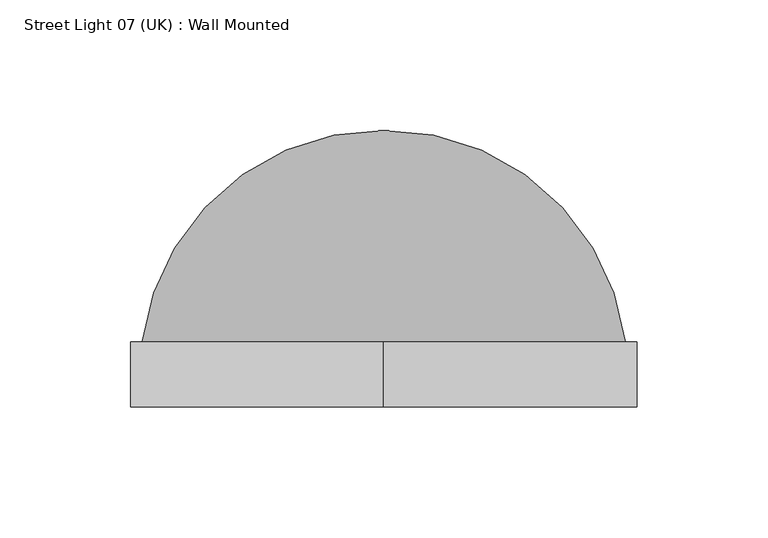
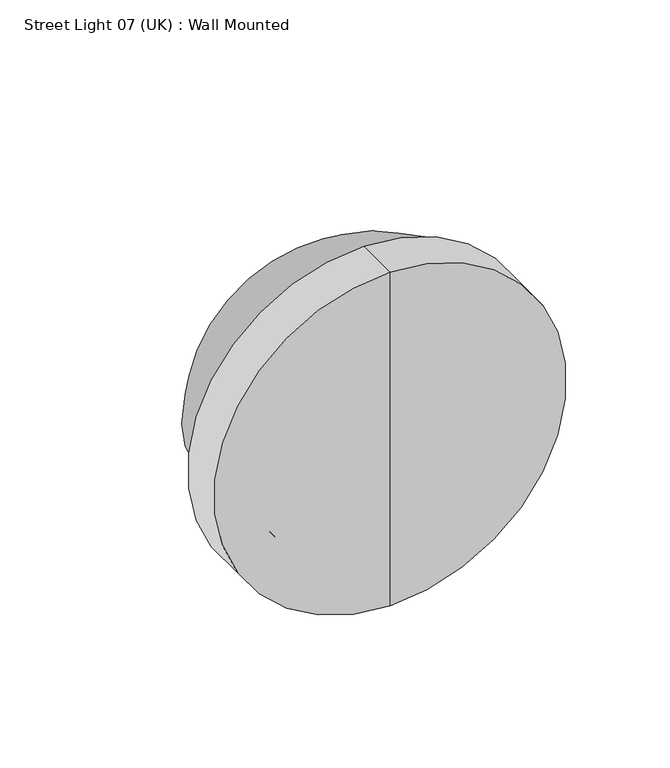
"""IFC4 building model written with IfcOpenShell, lengths in millimetres: light fixture geometry, Street Light 07 (UK) : Wall Mounted."""

import ifcopenshell
import ifcopenshell.guid

model = None  # the IFC model being written
_history = None  # IfcOwnerHistory: only IFC2X3 demands one
_inside = {}  # id of a spatial element -> (the spatial element, [elements in it])
_under = {}  # id of a project, library or spatial element -> (it, [spatial elements below it])
_declared = {}  # id of a project -> (the project, [libraries it declares])
_typed = {}  # id of a type object -> (the type object, [elements of that type])
_made_of = {}  # id of a material, layer set ... -> (it, [elements and type objects made of it])


def new_model(schema):
    """Start an empty IFC model of exactly this schema.

    Asked for "IFC4X3", IfcOpenShell would pick the latest addendum, in which some entities
    have other attributes; the version numbers below select the first issue.
    IFC2X3 requires an IfcOwnerHistory on every rooted entity: one is made here for all.
    """
    global model, _history
    if schema == "IFC4X3":
        model = ifcopenshell.file(schema_version=(4, 3, 0, 0))
    else:
        model = ifcopenshell.file(schema=schema)
    _inside.clear()
    _under.clear()
    _declared.clear()
    _typed.clear()
    _made_of.clear()
    _history = None
    if model.schema == "IFC2X3":
        org = make("IfcOrganization", Name="unknown")
        user = make(
            "IfcPersonAndOrganization",
            ThePerson=make("IfcPerson", FamilyName="unknown"),
            TheOrganization=org,
        )
        app = make(
            "IfcApplication",
            ApplicationDeveloper=org,
            Version="unknown",
            ApplicationFullName="unknown",
            ApplicationIdentifier="unknown",
        )
        _history = make(
            "IfcOwnerHistory",
            OwningUser=user,
            OwningApplication=app,
            ChangeAction="ADDED",
            CreationDate=0,
        )
    return model


def make(cls, **values):
    """One entity of the class cls with the attributes given. An attribute that is None is left unset."""
    return model.create_entity(
        cls, **{name: value for name, value in values.items() if value is not None}
    )


def rooted(cls, **values):
    """An entity with a GlobalId (a new one), such as an element, a storey or a relation."""
    return make(cls, GlobalId=ifcopenshell.guid.new(), OwnerHistory=_history, **values)


def si_unit(unit_type, name, prefix=None):
    """IfcSIUnit, for example si_unit("LENGTHUNIT", "METRE", prefix="MILLI")."""
    return make("IfcSIUnit", UnitType=unit_type, Prefix=prefix, Name=name)


def assignment(units):
    """IfcUnitAssignment: the units of a project."""
    return None if units is None else make("IfcUnitAssignment", Units=units)


def point(xyz):
    """IfcCartesianPoint."""
    return None if xyz is None else make("IfcCartesianPoint", Coordinates=xyz)


def direction(xyz):
    """IfcDirection."""
    return None if xyz is None else make("IfcDirection", DirectionRatios=xyz)


def frame(location, z_axis=None, x_axis=None):
    """IfcAxis2Placement3D, a coordinate frame: its origin and axes. An axis left out is left unset."""
    return make(
        "IfcAxis2Placement3D",
        Location=point(location),
        Axis=direction(z_axis),
        RefDirection=direction(x_axis),
    )


def origin():
    """The frame at (0, 0, 0) with its axes left unset."""
    return frame((0.0, 0.0, 0.0))


def place(relative_to, where):
    """IfcLocalPlacement: puts the frame where relative to a parent placement (None: the world)."""
    return make(
        "IfcLocalPlacement", PlacementRelTo=relative_to, RelativePlacement=where
    )


def context(
    kind, dimensions, precision=None, world=None, true_north=None, identifier=None
):
    """IfcGeometricRepresentationContext, for example the 3D "Model" context."""
    return make(
        "IfcGeometricRepresentationContext",
        ContextIdentifier=identifier,
        ContextType=kind,
        CoordinateSpaceDimension=dimensions,
        Precision=precision,
        WorldCoordinateSystem=world,
        TrueNorth=true_north,
    )


def project(units=None, contexts=None):
    """IfcProject with its units and contexts."""
    return rooted(
        "IfcProject",
        Name="project",
        RepresentationContexts=contexts,
        UnitsInContext=assignment(units),
    )


def spatial(cls, under=None, at=None, **own):
    """A site, building, storey or space (cls), placed at a placement, below another one or the project."""
    s = rooted(cls, ObjectPlacement=at, **own)
    if under is not None:
        _under.setdefault(under.id(), (under, []))[1].append(s)
    return s


def polyline(points):
    """IfcPolyline through the points."""
    return make("IfcPolyline", Points=[point(p) for p in points])


def circle_curve(where, radius):
    """IfcCircle in the frame where."""
    return make("IfcCircle", Position=where, Radius=radius)


def ellipse_curve(where, semi_axis1, semi_axis2):
    """IfcEllipse in the frame where."""
    return make(
        "IfcEllipse", Position=where, SemiAxis1=semi_axis1, SemiAxis2=semi_axis2
    )


def trimmed(basis, trim1, trim2, sense, master):
    """IfcTrimmedCurve: the piece of a basis curve between two trims."""
    return make(
        "IfcTrimmedCurve",
        BasisCurve=basis,
        Trim1=trim1,
        Trim2=trim2,
        SenseAgreement=sense,
        MasterRepresentation=master,
    )


def shape(context_of_items, identifier, shape_type, items):
    """IfcShapeRepresentation: the items that make up one representation, for example the "Body"."""
    return make(
        "IfcShapeRepresentation",
        ContextOfItems=context_of_items,
        RepresentationIdentifier=identifier,
        RepresentationType=shape_type,
        Items=items,
    )


def source(mapping_origin, context_of_items, identifier, shape_type, items):
    """IfcRepresentationMap: a shape defined once, which mapped items show again and again."""
    return make(
        "IfcRepresentationMap",
        MappingOrigin=mapping_origin,
        MappedRepresentation=shape(context_of_items, identifier, shape_type, items),
    )


def transform(
    local_origin,
    x_axis=None,
    y_axis=None,
    z_axis=None,
    scale=None,
    scale2=None,
    scale3=None,
    uniform=True,
):
    """IfcCartesianTransformationOperator3D, or its non-uniform kind. x_axis, y_axis, z_axis: its Axis1, 2, 3."""
    if uniform:
        return make(
            "IfcCartesianTransformationOperator3D",
            Axis1=direction(x_axis),
            Axis2=direction(y_axis),
            LocalOrigin=point(local_origin),
            Scale=scale,
            Axis3=direction(z_axis),
        )
    return make(
        "IfcCartesianTransformationOperator3DnonUniform",
        Axis1=direction(x_axis),
        Axis2=direction(y_axis),
        LocalOrigin=point(local_origin),
        Scale=scale,
        Axis3=direction(z_axis),
        Scale2=scale2,
        Scale3=scale3,
    )


def mapped(mapping_source, mapping_target):
    """IfcMappedItem: shows the shape of a source again, moved by a transform."""
    return make(
        "IfcMappedItem", MappingSource=mapping_source, MappingTarget=mapping_target
    )


def made_of(thing, what):
    """Note that an element or type object is made of a material, layer set ...; save() writes the relation."""
    if what is not None:
        _made_of.setdefault(what.id(), (what, []))[1].append(thing)
    return thing


def element(
    cls,
    number,
    at=None,
    inside=None,
    cuts=None,
    type_object=None,
    material=None,
    context=None,
    identifier="Body",
    shape_type=None,
    held_by="IfcProductDefinitionShape",
    body=None,
    shapes=None,
    **own,
):
    """One element of the class cls, such as IfcWall. Its Tag is "e" and its number.

    at: its placement. inside: the storey or other place that contains it. cuts: it is an
    opening in that element (IfcRelVoidsElement). A single representation is given by context,
    identifier, shape_type and body (its items); several are given by shapes. held_by: the class
    of the entity that holds the representations. save() writes the other relations.
    """
    e = rooted(cls, Tag="e%d" % number, ObjectPlacement=at, **own)
    if body is not None:
        shapes = [shape(context, identifier, shape_type, body)]
    if shapes is not None:
        e.Representation = make(held_by, Representations=shapes)
    if inside is not None:
        _inside.setdefault(inside.id(), (inside, []))[1].append(e)
    if cuts is not None:
        rooted(
            "IfcRelVoidsElement", RelatingBuildingElement=cuts, RelatedOpeningElement=e
        )
    if type_object is not None:
        _typed.setdefault(type_object.id(), (type_object, []))[1].append(e)
    return made_of(e, material)


def aggregate(whole, parts):
    """IfcRelAggregates: a whole, such as a stair, and the parts it consists of."""
    return rooted("IfcRelAggregates", RelatingObject=whole, RelatedObjects=parts)


def save(model, path):
    """Write the relations noted so far, then the file.

    IfcRelAggregates (storeys below a building ...), IfcRelContainedInSpatialStructure (elements
    in a storey), IfcRelDefinesByType, IfcRelAssociatesMaterial and IfcRelDeclares: one each for
    every whole, place, type object, material and project.
    """
    for whole, parts in _under.values():
        aggregate(whole, parts)
    for where, things in _inside.values():
        rooted(
            "IfcRelContainedInSpatialStructure",
            RelatedElements=things,
            RelatingStructure=where,
        )
    for kind, things in _typed.values():
        rooted("IfcRelDefinesByType", RelatedObjects=things, RelatingType=kind)
    for what, things in _made_of.values():
        rooted("IfcRelAssociatesMaterial", RelatedObjects=things, RelatingMaterial=what)
    for by, libraries in _declared.values():
        rooted("IfcRelDeclares", RelatingContext=by, RelatedDefinitions=libraries)
    model.write(path)


def plane_surface(at):
    """IfcPlane: the flat surface through the origin of the frame at, square to its z axis."""
    return make("IfcPlane", Position=at)


def cylinder_surface(at, radius):
    """IfcCylindricalSurface: all points at the distance radius from the z axis of the frame at."""
    return make("IfcCylindricalSurface", Position=at, Radius=radius)


def revolved_surface(curve, axis_point, axis_direction):
    """IfcSurfaceOfRevolution: the curve turned about the line through axis_point along axis_direction."""
    return make(
        "IfcSurfaceOfRevolution",
        SweptCurve=make("IfcArbitraryOpenProfileDef", ProfileType="CURVE", Curve=curve),
        AxisPosition=make("IfcAxis1Placement", Location=point(axis_point), Axis=direction(axis_direction)),
    )


def advanced_brep(points, edges, surfaces, faces):
    """IfcAdvancedBrep: a solid bounded by faces that lie on surfaces and meet in shared edges.

    An edge is (start, end): straight between two places in points (the first is 0);
    or (start, end, curve); or (start, end, curve, False) where it runs against its curve.
    A face is (place in surfaces, loops), or (place, loops, False) where it looks against
    its surface's normal. A loop lists edges by number (the first is 1), with a minus sign
    where the edge is run from its end to its start. The first loop is the outer one.
    """
    corners = [point(p) for p in points]
    vertices = [make("IfcVertexPoint", VertexGeometry=c) for c in corners]
    made = []
    for start, end, *more in edges:
        made.append(
            make(
                "IfcEdgeCurve",
                EdgeStart=vertices[start],
                EdgeEnd=vertices[end],
                EdgeGeometry=more[0] if more else make("IfcPolyline", Points=[corners[start], corners[end]]),
                SameSense=more[1] if len(more) > 1 else True,
            )
        )
    hull = []
    for where, loops, *sense in faces:
        bounds = []
        for j, loop in enumerate(loops):
            ring = [make("IfcOrientedEdge", EdgeElement=made[abs(k) - 1], Orientation=k > 0) for k in loop]
            bounds.append(
                make(
                    "IfcFaceOuterBound" if j == 0 else "IfcFaceBound",
                    Bound=make("IfcEdgeLoop", EdgeList=ring),
                    Orientation=True,
                )
            )
        hull.append(make("IfcAdvancedFace", Bounds=bounds, FaceSurface=surfaces[where], SameSense=sense[0] if sense else True))
    return make("IfcAdvancedBrep", Outer=make("IfcClosedShell", CfsFaces=hull))


def street_light_07_uk_wall_mounted_e56fcad9(model_context):
    return source(origin(), model_context, "Body", "AdvancedBrep", [
        advanced_brep(
        [(211.608148, 175.0, 2278.6607917), (125.0, 250.1695134, 2278.6607917), (125.0, 255.9435974, 2278.6607917), (217.429795, 175.0, 2278.6607917), (38.391852, 175.0, 2278.6607917), (32.570205, 175.0, 2278.6607917)],
        [
            (0, 1, circle_curve(frame((125.7582507, 163.5646846, 2278.6607917), z_axis=(0.0, 0.0, 1.0), x_axis=(0.0, 1.0, 0.0)), 86.608148)),
            (1, 2),
            (2, 3, circle_curve(frame((125.7582507, 163.5646846, 2278.6607917), z_axis=(0.0, 0.0, -1.0), x_axis=(0.0, 1.0, 0.0)), 92.3820245)),
            (3, 0),
            (4, 5),
            (5, 2, circle_curve(frame((124.2417493, 163.5646846, 2278.6607917), z_axis=(0.0, 0.0, -1.0), x_axis=(0.0, 1.0, 0.0)), 92.3820245)),
            (1, 4, circle_curve(frame((124.2417493, 163.5646846, 2278.6607917), z_axis=(0.0, 0.0, 1.0), x_axis=(0.0, 1.0, 0.0)), 86.608148)),
            (0, 4, circle_curve(frame((125.0, 175.0, 2278.6607917), z_axis=(0.0, -1.0, 0.0), x_axis=(1.0, 0.0, 0.0)), 86.608148)),
            (5, 3, circle_curve(frame((125.0, 175.0, 2278.6607917), z_axis=(0.0, 1.0, 0.0), x_axis=(1.0, 0.0, 0.0)), 92.429795)),
        ],
        [
            plane_surface(frame((125.0, -165.0, 2278.6607917), z_axis=(0.0, 0.0, -1.0), x_axis=(1.0, 0.0, 0.0))),
            plane_surface(frame((125.0, -165.0, 2278.6607917), z_axis=(0.0, 0.0, -1.0), x_axis=(-1.0, 0.0, 0.0))),
            revolved_surface(trimmed(ellipse_curve(frame((125.7582507, 163.5646846, 2278.6607917), z_axis=(0.0, 0.0, -1.0), x_axis=(0.0, 1.0, 0.0)), 86.608148, 86.608148), [point((125.0, 250.1695134, 2278.6607917))], [point((211.608148, 175.0, 2278.6607917))], True, "CARTESIAN"), (125.0, -165.0, 2278.6607917), (0.0, 1.0, 0.0)),
            revolved_surface(trimmed(ellipse_curve(frame((125.7582507, 163.5646846, 2278.6607917), z_axis=(0.0, 0.0, 1.0), x_axis=(0.0, 1.0, 0.0)), 92.3820245, 92.3820245), [point((217.429795, 175.0, 2278.6607917))], [point((125.0, 255.9435974, 2278.6607917))], True, "CARTESIAN"), (125.0, -165.0, 2278.6607917), (0.0, 1.0, 0.0)),
            plane_surface(frame((125.0, 175.0, 2278.6607917), z_axis=(0.0, -1.0, 0.0), x_axis=(1.0, 0.0, 0.0))),
        ],
        [
            (0, [[1, 2, 3, 4]]),
            (1, [[5, 6, -2, 7]]),
            (2, [[-1, 8, -7]]),
            (3, [[9, -3, -6]]),
            (4, [[-8, -4, -9, -5]]),
        ],
    ),
        advanced_brep(
        [(125.0, 155.0, 2278.6607917), (125.0, 155.0, 2209.1171623), (125.0, 155.0, 2348.2044211), (125.0, 236.9119127, 2278.6607917)],
        [
            (0, 1),
            (1, 2, circle_curve(frame((125.0, 155.0, 2278.6607917), z_axis=(0.0, -1.0, 0.0), x_axis=(0.0, 0.0, -1.0)), 69.5436294)),
            (2, 0),
            (2, 1, circle_curve(frame((125.0, 155.0, 2278.6607917), z_axis=(0.0, -1.0, 0.0), x_axis=(0.0, 0.0, -1.0)), 69.5436294)),
            (1, 3, circle_curve(frame((125.0, 105.3155672, 2350.6496926), z_axis=(1.0, 0.0, 0.0), x_axis=(0.0, 1.0, 0.0)), 150.0)),
            (3, 2, circle_curve(frame((125.0, 105.3155672, 2206.6718908), z_axis=(1.0, 0.0, 0.0), x_axis=(0.0, 1.0, 0.0)), 150.0)),
        ],
        [
            plane_surface(frame((125.0, 155.0, 2278.6607917), z_axis=(0.0, -1.0, 0.0), x_axis=(0.0, 0.0, -1.0))),
            revolved_surface(trimmed(ellipse_curve(frame((125.0, 105.3155672, 2350.6496926), z_axis=(-1.0, 0.0, 0.0), x_axis=(0.0, 1.0, 0.0)), 150.0, 150.0), [point((125.0, 236.9119127, 2278.6607917))], [point((125.0, 155.0, 2209.1171623))], True, "CARTESIAN"), (125.0, -295.0, 2278.6607917), (0.0, -1.0, 0.0)),
        ],
        [
            (0, [[1, 2, 3]]),
            (0, [[-3, 4, -1]]),
            (1, [[-2, 5, 6]]),
            (1, [[-4, -6, -5]]),
        ],
    ),
        advanced_brep(
        [(125.0, 150.0, 2278.6607917), (125.0, 150.0, 2181.1607917), (125.0, 150.0, 2376.1607917), (125.0, 155.0, 2351.1607917), (125.0, 155.0, 2206.1607917), (125.0, 155.0, 2278.6607917), (125.0, 175.0, 2351.1607917), (125.0, 175.0, 2206.1607917), (125.0, 175.0, 2376.1607917), (125.0, 175.0, 2181.1607917)],
        [
            (0, 1),
            (1, 2, circle_curve(frame((125.0, 150.0, 2278.6607917), z_axis=(0.0, -1.0, 0.0), x_axis=(0.0, 0.0, -1.0)), 97.5)),
            (2, 0),
            (2, 1, circle_curve(frame((125.0, 150.0, 2278.6607917), z_axis=(0.0, -1.0, 0.0), x_axis=(0.0, 0.0, -1.0)), 97.5)),
            (3, 4, circle_curve(frame((125.0, 155.0, 2278.6607917), z_axis=(0.0, 1.0, 0.0), x_axis=(0.0, 0.0, -1.0)), 72.5)),
            (4, 5),
            (5, 3),
            (4, 3, circle_curve(frame((125.0, 155.0, 2278.6607917), z_axis=(0.0, 1.0, 0.0), x_axis=(0.0, 0.0, -1.0)), 72.5)),
            (6, 7, circle_curve(frame((125.0, 175.0, 2278.6607917), z_axis=(0.0, 1.0, 0.0), x_axis=(0.0, 0.0, -1.0)), 72.5)),
            (7, 4),
            (3, 6),
            (7, 6, circle_curve(frame((125.0, 175.0, 2278.6607917), z_axis=(0.0, 1.0, 0.0), x_axis=(0.0, 0.0, -1.0)), 72.5)),
            (8, 9, circle_curve(frame((125.0, 175.0, 2278.6607917), z_axis=(0.0, 1.0, 0.0), x_axis=(0.0, 0.0, -1.0)), 97.5)),
            (9, 7),
            (6, 8),
            (9, 8, circle_curve(frame((125.0, 175.0, 2278.6607917), z_axis=(0.0, 1.0, 0.0), x_axis=(0.0, 0.0, -1.0)), 97.5)),
            (1, 9),
            (8, 2),
        ],
        [
            plane_surface(frame((125.0, 150.0, 2278.6607917), z_axis=(0.0, -1.0, 0.0), x_axis=(0.0, 0.0, -1.0))),
            plane_surface(frame((125.0, 155.0, 2278.6607917), z_axis=(0.0, 1.0, 0.0), x_axis=(0.0, 0.0, -1.0))),
            revolved_surface(polyline([(125.0, 155.0, 2206.1607917), (125.0, 175.0, 2206.1607917)]), (125.0, 0.0, 2278.6607917), (0.0, -1.0, 0.0)),
            plane_surface(frame((125.0, 175.0, 2278.6607917), z_axis=(0.0, 1.0, 0.0), x_axis=(0.0, 0.0, -1.0))),
            cylinder_surface(frame((125.0, 0.0, 2278.6607917), z_axis=(0.0, -1.0, 0.0), x_axis=(0.0, 0.0, -1.0)), 97.5),
        ],
        [
            (0, [[1, 2, 3]]),
            (0, [[-3, 4, -1]]),
            (1, [[5, 6, 7]]),
            (1, [[8, -7, -6]]),
            (2, [[9, 10, -5, 11]]),
            (2, [[12, -11, -8, -10]]),
            (3, [[13, 14, -9, 15]]),
            (3, [[16, -15, -12, -14]]),
            (4, [[-2, 17, -13, 18]]),
            (4, [[-4, -18, -16, -17]]),
        ],
    ),
    ])


if __name__ == "__main__":
    model = new_model("IFC4")
    model_context = context("Model", 3, world=origin())
    ifc_project = project(units=[si_unit("LENGTHUNIT", "METRE", prefix="MILLI")], contexts=[model_context])
    site = spatial("IfcSite", under=ifc_project)
    building = spatial("IfcBuilding", under=site)
    placement = place(None, origin())
    street_light_07_uk_wall_mounted_shape = street_light_07_uk_wall_mounted_e56fcad9(model_context)
    element("IfcLightFixture", 1, ObjectType="Street Light 07 (UK) : Wall Mounted", at=placement, inside=building, context=model_context, shape_type="MappedRepresentation", body=[
        mapped(street_light_07_uk_wall_mounted_shape, transform((0.0, 0.0, 0.0), x_axis=(1.0, 0.0, 0.0), y_axis=(0.0, 1.0, 0.0), z_axis=(0.0, 0.0, 1.0))),
    ])
    save(model, "model.ifc")
